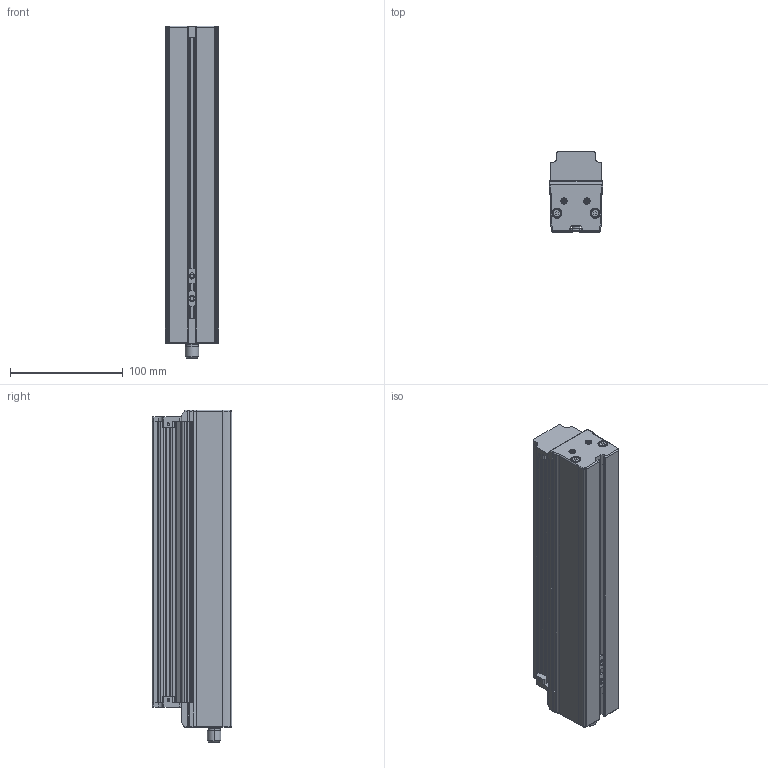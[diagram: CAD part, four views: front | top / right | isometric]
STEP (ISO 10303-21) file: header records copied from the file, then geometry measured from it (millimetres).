
FILE_DESCRIPTION (( 'STEP AP214' ), '1' );
FILE_NAME ('ELINE-EC-250-xxx-xx_CLIENT.STEP', '2026-06-08T12:06:25', ( '' ), ( '' ), 'SwSTEP 2.0', 'SolidWorks 2025', '' );
FILE_SCHEMA (( 'AUTOMOTIVE_DESIGN' ));
Length unit declared in the file: millimetre
Products named in the file (3): 1-X2014-01-3-A_1; ELINE-EC-xxx-xxx-xx_CLIENT_250; ELINE-EC-250-xxx-xx_CLIENT
Assembly tree (3 placements, depth 2):
  ELINE-EC-250-xxx-xx_CLIENT
    ELINE-EC-xxx-xxx-xx_CLIENT_250
    1-X2014-01-3-A_1  x2
Bounding box: 47.7 x 70.9 x 295.05 mm (x, y, z)
Volume: 780129.7 mm3; surface area: 82412.6 mm2
Topology: 3 solids, 3 shells, 926 faces, 2415 edges, 1559 vertices
Faces by surface type: plane 430, cylinder 274, bspline 140, torus 64, cone 14, sphere 4
Entity records: 32572 total; most frequent: CARTESIAN_POINT 10869, ORIENTED_EDGE 4684, DIRECTION 4132, EDGE_CURVE 2342, VERTEX_POINT 1518, AXIS2_PLACEMENT_3D 1408, LINE 1316, VECTOR 1316
